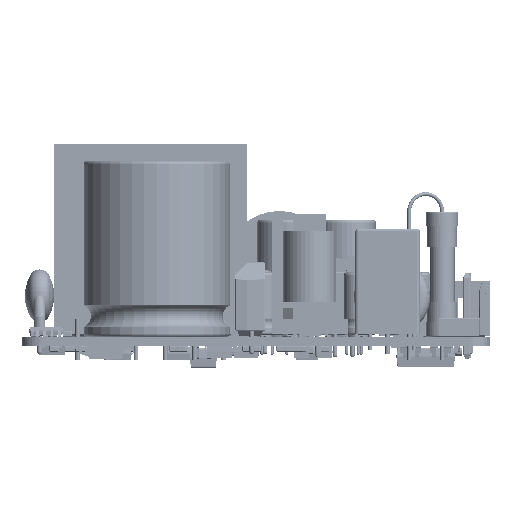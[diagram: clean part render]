
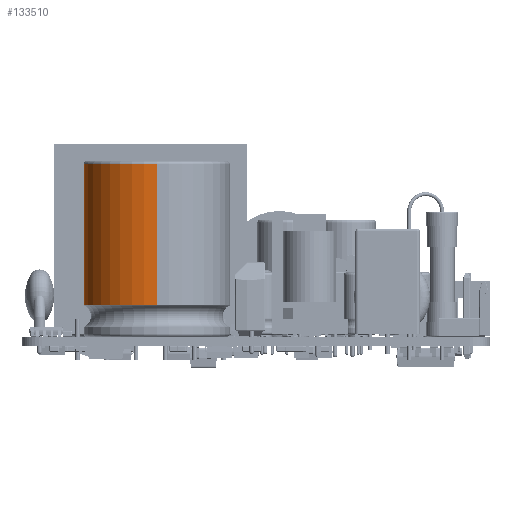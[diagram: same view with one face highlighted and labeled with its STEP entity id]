
A CAD part, left-side view. The second image highlights one B-rep face of the part: STEP entity #133510.
In plain terms, the highlighted cylindrical face has radius 12.5 mm (diameter 25 mm), a partial arc.
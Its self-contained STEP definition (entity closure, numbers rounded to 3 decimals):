
#133482 = VERTEX_POINT('',#133483);
#133483 = CARTESIAN_POINT('',(-14.,29.5,0.));
#133490 = EDGE_CURVE('',#133491,#133482,#133493,.T.);
#133491 = VERTEX_POINT('',#133492);
#133492 = CARTESIAN_POINT('',(11.,29.5,0.));
#133493 = CIRCLE('',#133494,12.5);
#133494 = AXIS2_PLACEMENT_3D('',#133495,#133496,#133497);
#133495 = CARTESIAN_POINT('',(-1.5,29.5,0.));
#133496 = DIRECTION('',(0.,-1.,0.));
#133497 = DIRECTION('',(1.,0.,0.));
#133510 = ADVANCED_FACE('',(#133511),#133537,.T.);
#133511 = FACE_BOUND('',#133512,.T.);
#133512 = EDGE_LOOP('',(#133513,#133514,#133522,#133531));
#133513 = ORIENTED_EDGE('',*,*,#133490,.T.);
#133514 = ORIENTED_EDGE('',*,*,#133515,.T.);
#133515 = EDGE_CURVE('',#133482,#133516,#133518,.T.);
#133516 = VERTEX_POINT('',#133517);
#133517 = CARTESIAN_POINT('',(-14.,5.354,0.));
#133518 = LINE('',#133519,#133520);
#133519 = CARTESIAN_POINT('',(-14.,25.006,0.)
  );
#133520 = VECTOR('',#133521,1.);
#133521 = DIRECTION('',(0.,-1.,0.));
#133522 = ORIENTED_EDGE('',*,*,#133523,.F.);
#133523 = EDGE_CURVE('',#133524,#133516,#133526,.T.);
#133524 = VERTEX_POINT('',#133525);
#133525 = CARTESIAN_POINT('',(11.,5.354,0.));
#133526 = CIRCLE('',#133527,12.5);
#133527 = AXIS2_PLACEMENT_3D('',#133528,#133529,#133530);
#133528 = CARTESIAN_POINT('',(-1.5,5.354,0.));
#133529 = DIRECTION('',(0.,-1.,0.));
#133530 = DIRECTION('',(1.,0.,0.));
#133531 = ORIENTED_EDGE('',*,*,#133532,.F.);
#133532 = EDGE_CURVE('',#133491,#133524,#133533,.T.);
#133533 = LINE('',#133534,#133535);
#133534 = CARTESIAN_POINT('',(11.,25.006,0.));
#133535 = VECTOR('',#133536,1.);
#133536 = DIRECTION('',(0.,-1.,0.));
#133537 = CYLINDRICAL_SURFACE('',#133538,12.5);
#133538 = AXIS2_PLACEMENT_3D('',#133539,#133540,#133541);
#133539 = CARTESIAN_POINT('',(-1.5,25.006,0.));
#133540 = DIRECTION('',(0.,-1.,0.));
#133541 = DIRECTION('',(1.,0.,0.));
